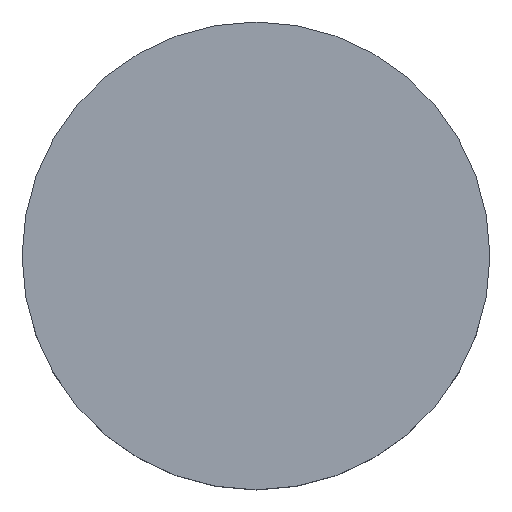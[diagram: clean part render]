
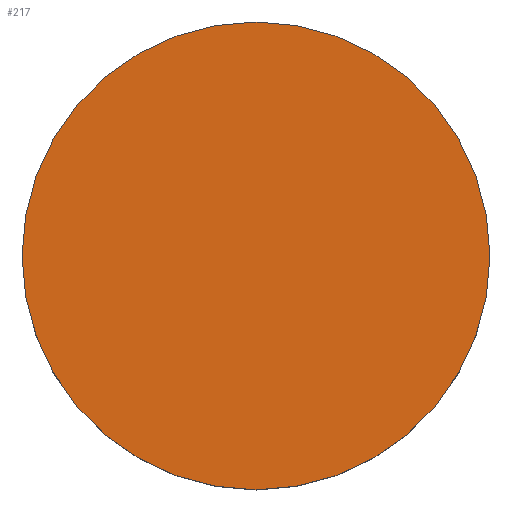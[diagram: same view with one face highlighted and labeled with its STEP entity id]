
A CAD part, top view. The second image highlights one B-rep face of the part: STEP entity #217.
In plain terms, the highlighted planar face has unit normal (0, 0, 1).
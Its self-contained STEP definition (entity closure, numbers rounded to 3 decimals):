
#217=ADVANCED_FACE('',(#281),#266,.T.);
#266=PLANE('',#798);
#281=FACE_OUTER_BOUND('',#317,.T.);
#317=EDGE_LOOP('',(#379,#380));
#379=ORIENTED_EDGE('',*,*,#633,.F.);
#380=ORIENTED_EDGE('',*,*,#634,.F.);
#571=VERTEX_POINT('',#1175);
#572=VERTEX_POINT('',#1176);
#633=EDGE_CURVE('',#571,#572,#729,.T.);
#634=EDGE_CURVE('',#572,#571,#730,.T.);
#729=CIRCLE('',#796,11.5);
#730=CIRCLE('',#797,11.5);
#796=AXIS2_PLACEMENT_3D('',#1174,#913,#914);
#797=AXIS2_PLACEMENT_3D('',#1177,#915,#916);
#798=AXIS2_PLACEMENT_3D('',#1178,#917,#918);
#913=DIRECTION('',(0.,0.,-1.));
#914=DIRECTION('',(0.,1.,0.));
#915=DIRECTION('',(0.,0.,-1.));
#916=DIRECTION('',(0.,-1.,0.));
#917=DIRECTION('',(0.,0.,1.));
#918=DIRECTION('',(0.,-1.,0.));
#1174=CARTESIAN_POINT('',(0.,0.,5.));
#1175=CARTESIAN_POINT('',(11.5,0.,5.));
#1176=CARTESIAN_POINT('',(-11.5,0.,5.));
#1177=CARTESIAN_POINT('',(0.,0.,5.));
#1178=CARTESIAN_POINT('',(0.,0.,5.));
